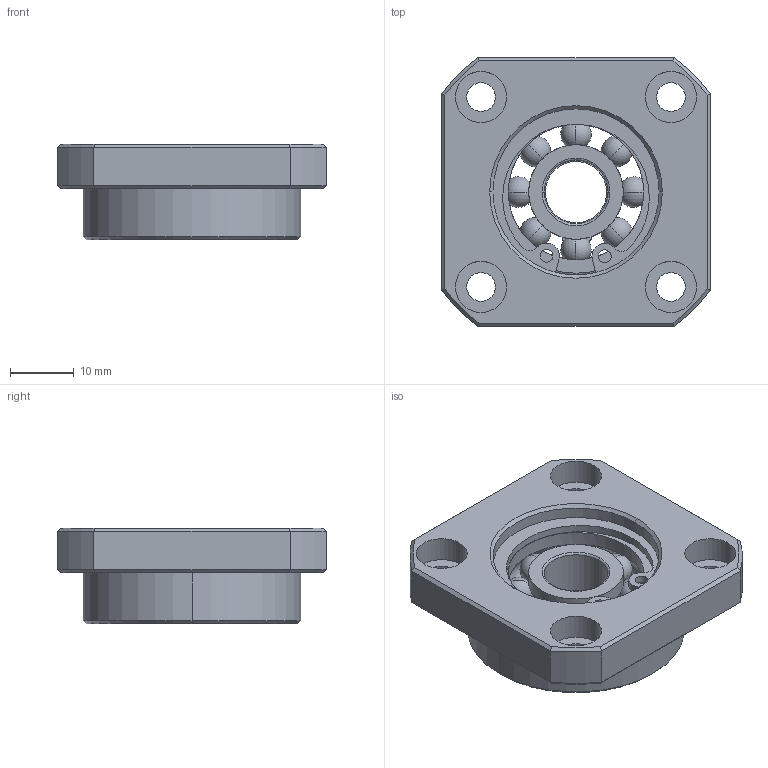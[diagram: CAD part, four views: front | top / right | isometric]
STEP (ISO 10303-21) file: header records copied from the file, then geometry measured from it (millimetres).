
FILE_DESCRIPTION (( 'STEP AP203' ), '1' );
FILE_NAME ('GTR12.STEP', '2014-08-06T06:28:07', ( 'user' ), ( '' ), 'SwSTEP 2.0', 'SolidWorks 2014', '' );
FILE_SCHEMA (( 'CONFIG_CONTROL_DESIGN' ));
Length unit declared in the file: millimetre
Products named in the file (1): GTR12
Bounding box: 42 x 42 x 15 mm (x, y, z)
Surface area: 8552.9 mm2 (no closed solid volume)
Topology: 0 solids, 4 shells, 160 faces, 518 edges, 340 vertices
Faces by surface type: cylinder 64, plane 34, torus 32, sphere 16, cone 14
Entity records: 6048 total; most frequent: CARTESIAN_POINT 1739, ORIENTED_EDGE 895, DIRECTION 891, EDGE_CURVE 470, AXIS2_PLACEMENT_3D 388, VERTEX_POINT 308, CIRCLE 227, EDGE_LOOP 184
